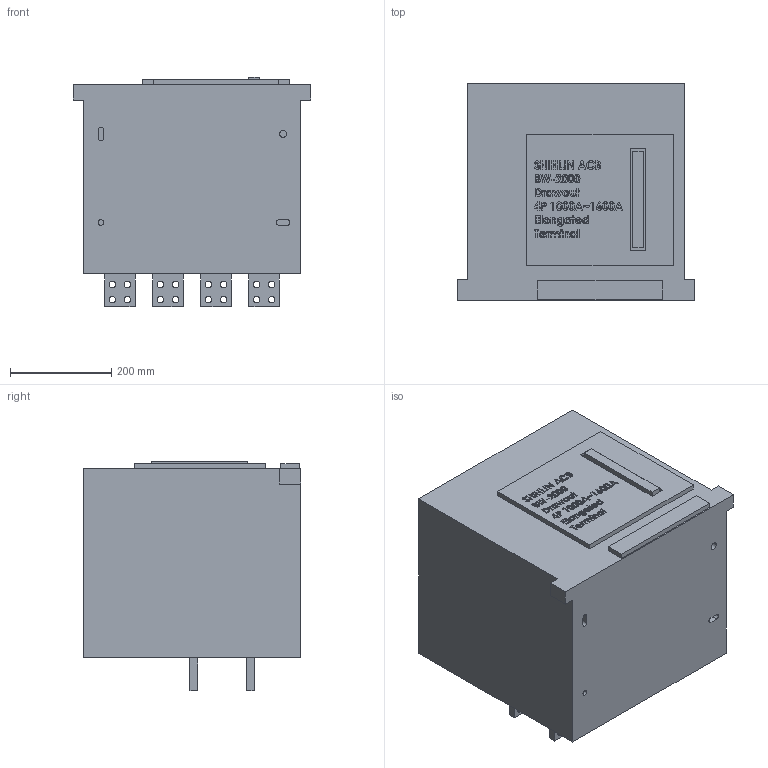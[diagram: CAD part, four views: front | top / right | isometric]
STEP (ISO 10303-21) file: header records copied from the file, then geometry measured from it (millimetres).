
FILE_DESCRIPTION (( 'STEP AP203' ), '1' );
FILE_NAME ('BW-2000-Drawout-4P-1000-1600A-Elongated Terminal.STEP', '2016-11-03T01:24:30', ( '' ), ( '' ), 'SwSTEP 2.0', 'SolidWorks 2015', '' );
FILE_SCHEMA (( 'CONFIG_CONTROL_DESIGN' ));
Products named in the file (1): BW-2000-Drawout-4P-1000-1600A-Elongated Terminal
Bounding box: 470 x 430 x 453.5 mm (x, y, z)
Volume: 70292800.5 mm3; surface area: 1170890.6 mm2
Topology: 1 solids, 1 shells, 830 faces, 2187 edges, 1458 vertices
Faces by surface type: plane 482, bspline 275, cylinder 73
Entity records: 40620 total; most frequent: CARTESIAN_POINT 21599, ORIENTED_EDGE 4374, DIRECTION 2895, EDGE_CURVE 2187, LINE 1491, VECTOR 1491, VERTEX_POINT 1458, EDGE_LOOP 993
